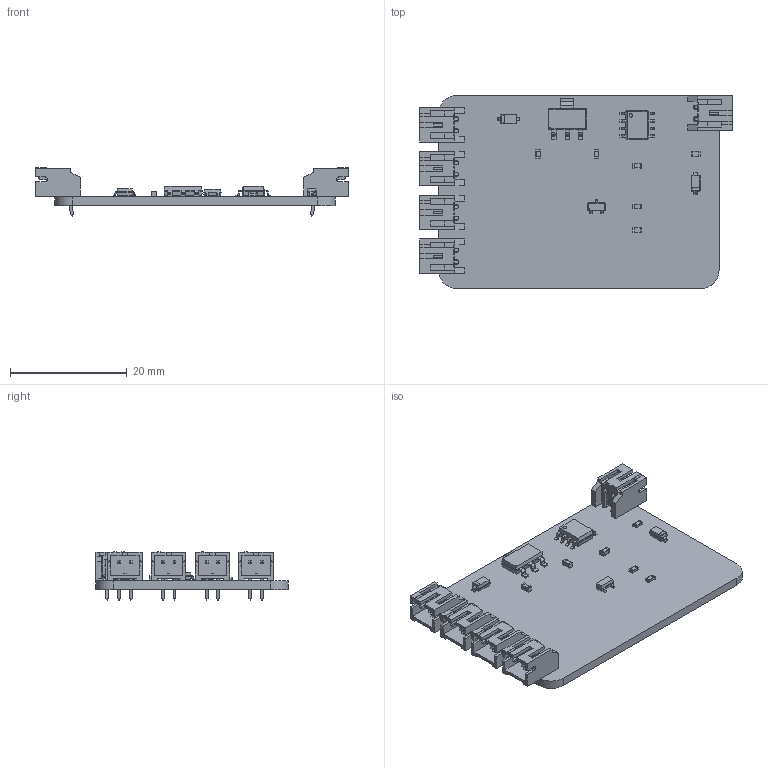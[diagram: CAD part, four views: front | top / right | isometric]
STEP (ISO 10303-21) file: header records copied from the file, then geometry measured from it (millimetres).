
FILE_DESCRIPTION(('KiCad electronic assembly'),'2;1');
FILE_NAME('sensor_light_controller.step','2026-09-24T14:46:39',('Pcbnew' ),('Kicad'),'Open CASCADE STEP processor 7.9', 'KiCad to STEP converter','Unknown');
FILE_SCHEMA(('AUTOMOTIVE_DESIGN { 1 0 10303 214 1 1 1 1 }'));
Length unit declared in the file: millimetre
Products named in the file (16): sensor_light_controller 1; C_0603_1608Metric; JST_PH_S2B-PH-K_1x02_P2.00mm_Horizontal; JST_S2B_PH_K; D_SOD-123; R_0603_1608Metric; SOIC-8_3.9x4.9mm_P1.27mm; SOT-23; SOT-223; senB4A5_PCB
Assembly tree (24 placements, depth 3):
  sensor_light_controller 1
    C_0603_1608Metric  x3
      C_0603_1608Metric
    JST_PH_S2B-PH-K_1x02_P2.00mm_Horizontal  x5
      JST_S2B_PH_K
    D_SOD-123  x2
      D_SOD-123
    R_0603_1608Metric  x3
      R_0603_1608Metric
    SOIC-8_3.9x4.9mm_P1.27mm
      SOIC-8_3.9x4.9mm_P1.27mm
    SOT-23
      SOT-23
    SOT-223
      SOT-223
    senB4A5_PCB
Bounding box: 53.5 x 33 x 8.25 mm (x, y, z)
Volume: 2989 mm3; surface area: 5304.8 mm2
Topology: 17 solids, 17 shells, 1141 faces, 3093 edges, 1997 vertices
Faces by surface type: plane 889, cylinder 180, bspline 72
Full cylindrical faces by diameter (mm): 0.75 x10
Entity records: 20888 total; most frequent: CARTESIAN_POINT 3133, ORIENTED_EDGE 2832, DIRECTION 2558, EDGE_CURVE 1417, LINE 1114, VECTOR 1114, VERTEX_POINT 905, AXIS2_PLACEMENT_3D 722
